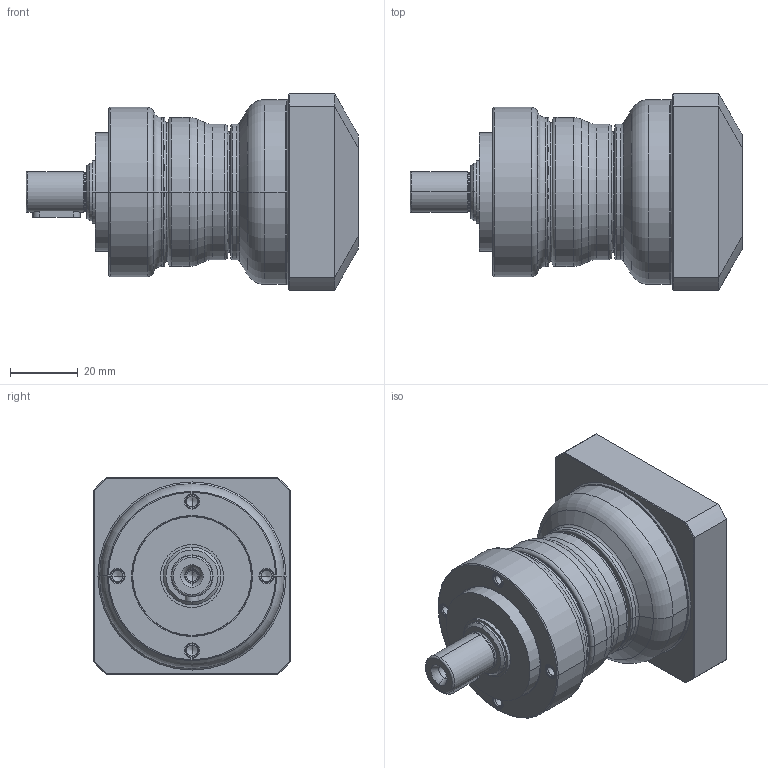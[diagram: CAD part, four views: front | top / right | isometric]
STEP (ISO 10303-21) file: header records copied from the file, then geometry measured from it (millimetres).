
FILE_DESCRIPTION((''),'2;1');
FILE_NAME('PE2-050_1ST_8-P0411100101_ASM','2016-04-20T',('d00435'),(''),'PRO/ENGINEER BY PARAMETRIC TECHNOLOGY CORPORATION, 2008410','PRO/ENGINEER BY PARAMETRIC TECHNOLOGY CORPORATION, 2008410','');
FILE_SCHEMA(('CONFIG_CONTROL_DESIGN'));
Length unit declared in the file: millimetre
Products named in the file (9): P1323100001; P0250100001; P1324100001; P0350101001; P0941100001; P0503100005; P0411100101; P1702300001; PE2-050_1ST_8-P0411100101_ASM
Assembly tree (8 placements, depth 2):
  PE2-050_1ST_8-P0411100101_ASM
    P1323100001
    P0250100001
    P1324100001
    P0350101001
    P0941100001
    P0503100005
    P0411100101
    P1702300001
Bounding box: 98 x 58 x 58 mm (x, y, z)
Volume: 122619.8 mm3; surface area: 47811.1 mm2
Topology: 8 solids, 22 shells, 508 faces, 1154 edges, 688 vertices
Faces by surface type: cylinder 164, cone 138, torus 96, plane 94, bspline 16
Entity records: 19419 total; most frequent: CARTESIAN_POINT 7658, DIRECTION 2691, ORIENTED_EDGE 2196, AXIS2_PLACEMENT_3D 1163, EDGE_CURVE 1126, VERTEX_POINT 688, CIRCLE 644, EDGE_LOOP 586
